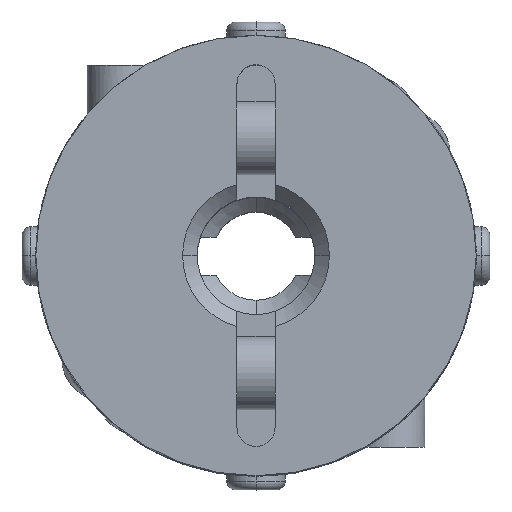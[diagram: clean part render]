
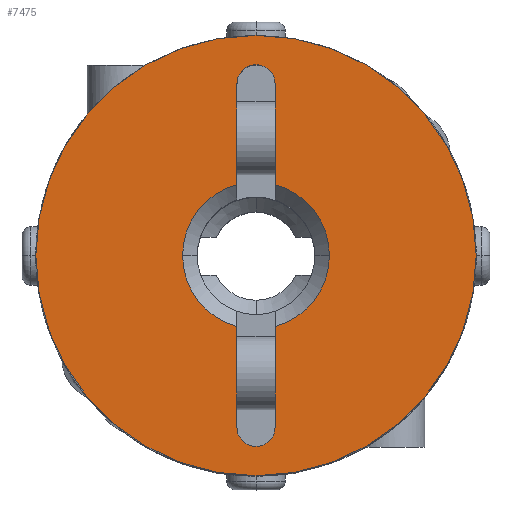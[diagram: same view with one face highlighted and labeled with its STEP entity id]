
A CAD part, top view. The second image highlights one B-rep face of the part: STEP entity #7475.
In plain terms, the highlighted planar face has unit normal (0, 0, 1).
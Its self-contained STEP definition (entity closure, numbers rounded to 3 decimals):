
#1033=CARTESIAN_POINT('',(-7.5,0.,9.0));
#1034=VERTEX_POINT('',#1033);
#1041=CARTESIAN_POINT('',(7.5,0.0,9.0));
#1042=VERTEX_POINT('',#1041);
#1043=CARTESIAN_POINT('',(0.0,0.0,9.0));
#1044=DIRECTION('',(0.0,0.0,-1.0));
#1045=DIRECTION('',(1.0,0.0,0.0));
#1046=AXIS2_PLACEMENT_3D('',#1043,#1044,#1045);
#1047=CIRCLE('',#1046,7.5);
#1048=EDGE_CURVE('',#1034,#1042,#1047,.T.);
#1400=CARTESIAN_POINT('',(2.5,0.,9.0));
#1401=VERTEX_POINT('',#1400);
#1408=CARTESIAN_POINT('',(0.65,2.414,9.0));
#1409=VERTEX_POINT('',#1408);
#1410=CARTESIAN_POINT('',(0.0,0.0,9.0));
#1411=DIRECTION('',(0.0,0.0,1.0));
#1412=DIRECTION('',(-1.0,0.0,0.0));
#1413=AXIS2_PLACEMENT_3D('',#1410,#1411,#1412);
#1414=CIRCLE('',#1413,2.5);
#1415=EDGE_CURVE('',#1401,#1409,#1414,.T.);
#1439=CARTESIAN_POINT('',(-2.5,0.,9.0));
#1440=VERTEX_POINT('',#1439);
#1448=CARTESIAN_POINT('',(-0.65,2.414,9.0));
#1449=VERTEX_POINT('',#1448);
#1463=CARTESIAN_POINT('',(0.0,0.0,9.0));
#1464=DIRECTION('',(0.0,0.0,1.0));
#1465=DIRECTION('',(-1.0,0.0,0.0));
#1466=AXIS2_PLACEMENT_3D('',#1463,#1464,#1465);
#1467=CIRCLE('',#1466,2.5);
#1468=EDGE_CURVE('',#1449,#1440,#1467,.T.);
#1478=CARTESIAN_POINT('',(0.46,6.31,9.0));
#1479=VERTEX_POINT('',#1478);
#1488=CARTESIAN_POINT('',(-0.65,5.85,9.0));
#1489=VERTEX_POINT('',#1488);
#1490=CARTESIAN_POINT('',(0.,5.85,9.0));
#1491=DIRECTION('',(0.0,0.0,1.0));
#1492=DIRECTION('',(0.707,0.707,0.0));
#1493=AXIS2_PLACEMENT_3D('',#1490,#1491,#1492);
#1494=CIRCLE('',#1493,0.65);
#1495=EDGE_CURVE('',#1479,#1489,#1494,.T.);
#1520=CARTESIAN_POINT('',(0.46,-6.31,9.0));
#1521=VERTEX_POINT('',#1520);
#1530=CARTESIAN_POINT('',(0.65,-5.85,9.0));
#1531=VERTEX_POINT('',#1530);
#1532=CARTESIAN_POINT('',(0.,-5.85,9.0));
#1533=DIRECTION('',(0.0,0.0,1.0));
#1534=DIRECTION('',(-0.707,-0.707,0.0));
#1535=AXIS2_PLACEMENT_3D('',#1532,#1533,#1534);
#1536=CIRCLE('',#1535,0.65);
#1537=EDGE_CURVE('',#1521,#1531,#1536,.T.);
#7201=CARTESIAN_POINT('',(-0.65,-5.85,9.0));
#7202=VERTEX_POINT('',#7201);
#7209=CARTESIAN_POINT('',(0.,-5.85,9.0));
#7210=DIRECTION('',(0.0,0.0,1.0));
#7211=DIRECTION('',(-0.707,-0.707,0.0));
#7212=AXIS2_PLACEMENT_3D('',#7209,#7210,#7211);
#7213=CIRCLE('',#7212,0.65);
#7214=EDGE_CURVE('',#7202,#1521,#7213,.T.);
#7225=CARTESIAN_POINT('',(0.65,-2.414,9.0));
#7226=VERTEX_POINT('',#7225);
#7227=CARTESIAN_POINT('',(0.65,-2.414,9.0));
#7228=DIRECTION('',(0.0,-1.0,0.0));
#7229=VECTOR('',#7228,3.436);
#7230=LINE('',#7227,#7229);
#7231=EDGE_CURVE('',#7226,#1531,#7230,.T.);
#7274=CARTESIAN_POINT('',(-0.65,2.414,9.0));
#7275=DIRECTION('',(0.0,1.0,0.0));
#7276=VECTOR('',#7275,3.436);
#7277=LINE('',#7274,#7276);
#7278=EDGE_CURVE('',#1449,#1489,#7277,.T.);
#7325=CARTESIAN_POINT('',(0.65,5.85,9.0));
#7326=VERTEX_POINT('',#7325);
#7333=CARTESIAN_POINT('',(0.,5.85,9.0));
#7334=DIRECTION('',(0.0,0.0,1.0));
#7335=DIRECTION('',(0.707,0.707,0.0));
#7336=AXIS2_PLACEMENT_3D('',#7333,#7334,#7335);
#7337=CIRCLE('',#7336,0.65);
#7338=EDGE_CURVE('',#7326,#1479,#7337,.T.);
#7372=CARTESIAN_POINT('',(0.65,5.85,9.0));
#7373=DIRECTION('',(0.0,-1.0,0.0));
#7374=VECTOR('',#7373,3.436);
#7375=LINE('',#7372,#7374);
#7376=EDGE_CURVE('',#7326,#1409,#7375,.T.);
#7406=CARTESIAN_POINT('',(-0.65,-2.414,9.0));
#7407=VERTEX_POINT('',#7406);
#7421=CARTESIAN_POINT('',(-0.65,-5.85,9.0));
#7422=DIRECTION('',(0.0,1.0,0.0));
#7423=VECTOR('',#7422,3.436);
#7424=LINE('',#7421,#7423);
#7425=EDGE_CURVE('',#7202,#7407,#7424,.T.);
#7434=CARTESIAN_POINT('',(0.682,0.,9.0));
#7435=DIRECTION('',(0.0,0.0,1.0));
#7436=DIRECTION('',(1.0,0.0,0.0));
#7437=AXIS2_PLACEMENT_3D('',#7434,#7435,#7436);
#7438=PLANE('',#7437);
#7439=CARTESIAN_POINT('',(0.0,0.0,9.0));
#7440=DIRECTION('',(0.0,0.0,-1.0));
#7441=DIRECTION('',(1.0,0.0,0.0));
#7442=AXIS2_PLACEMENT_3D('',#7439,#7440,#7441);
#7443=CIRCLE('',#7442,7.5);
#7444=EDGE_CURVE('',#1042,#1034,#7443,.T.);
#7445=ORIENTED_EDGE('',*,*,#7444,.F.);
#7446=ORIENTED_EDGE('',*,*,#1048,.F.);
#7447=EDGE_LOOP('',(#7445,#7446));
#7448=FACE_OUTER_BOUND('',#7447,.T.);
#7449=ORIENTED_EDGE('',*,*,#7231,.T.);
#7450=ORIENTED_EDGE('',*,*,#1537,.F.);
#7451=ORIENTED_EDGE('',*,*,#7214,.F.);
#7452=ORIENTED_EDGE('',*,*,#7425,.T.);
#7453=CARTESIAN_POINT('',(0.0,0.0,9.0));
#7454=DIRECTION('',(0.0,0.0,1.0));
#7455=DIRECTION('',(-1.0,0.0,0.0));
#7456=AXIS2_PLACEMENT_3D('',#7453,#7454,#7455);
#7457=CIRCLE('',#7456,2.5);
#7458=EDGE_CURVE('',#1440,#7407,#7457,.T.);
#7459=ORIENTED_EDGE('',*,*,#7458,.F.);
#7460=ORIENTED_EDGE('',*,*,#1468,.F.);
#7461=ORIENTED_EDGE('',*,*,#7278,.T.);
#7462=ORIENTED_EDGE('',*,*,#1495,.F.);
#7463=ORIENTED_EDGE('',*,*,#7338,.F.);
#7464=ORIENTED_EDGE('',*,*,#7376,.T.);
#7465=ORIENTED_EDGE('',*,*,#1415,.F.);
#7466=CARTESIAN_POINT('',(0.0,0.0,9.0));
#7467=DIRECTION('',(0.0,0.0,1.0));
#7468=DIRECTION('',(-1.0,0.0,0.0));
#7469=AXIS2_PLACEMENT_3D('',#7466,#7467,#7468);
#7470=CIRCLE('',#7469,2.5);
#7471=EDGE_CURVE('',#7226,#1401,#7470,.T.);
#7472=ORIENTED_EDGE('',*,*,#7471,.F.);
#7473=EDGE_LOOP('',(#7449,#7450,#7451,#7452,#7459,#7460,#7461,#7462,#7463,#7464,#7465,#7472));
#7474=FACE_BOUND('',#7473,.T.);
#7475=ADVANCED_FACE('',(#7448,#7474),#7438,.T.);
